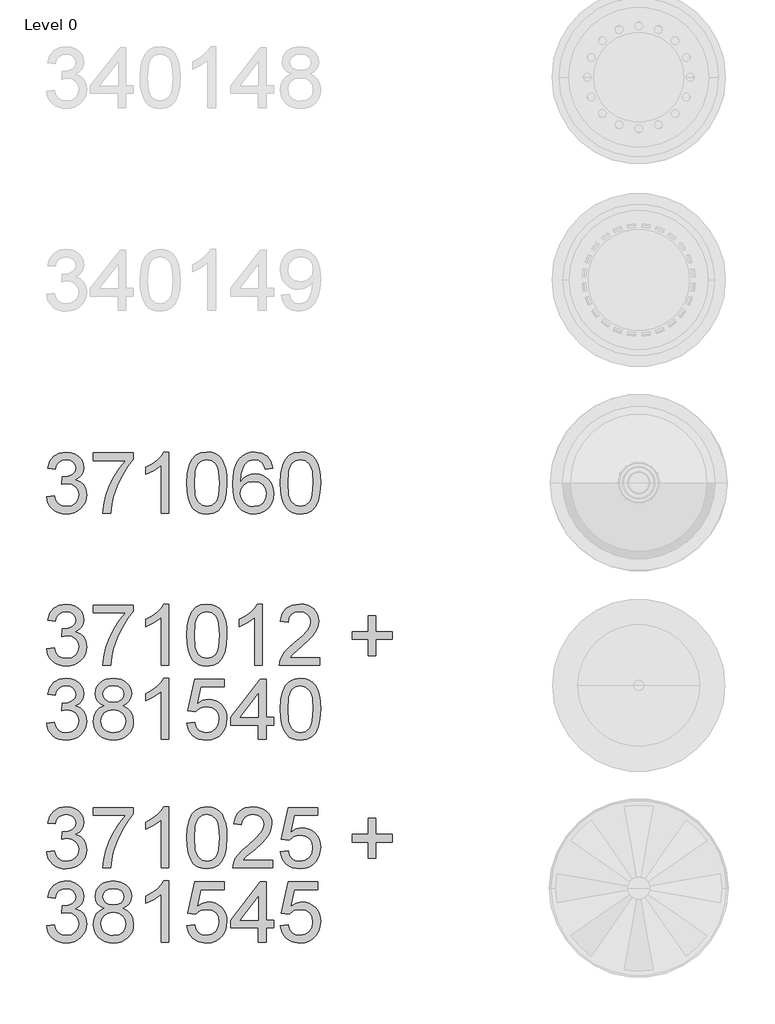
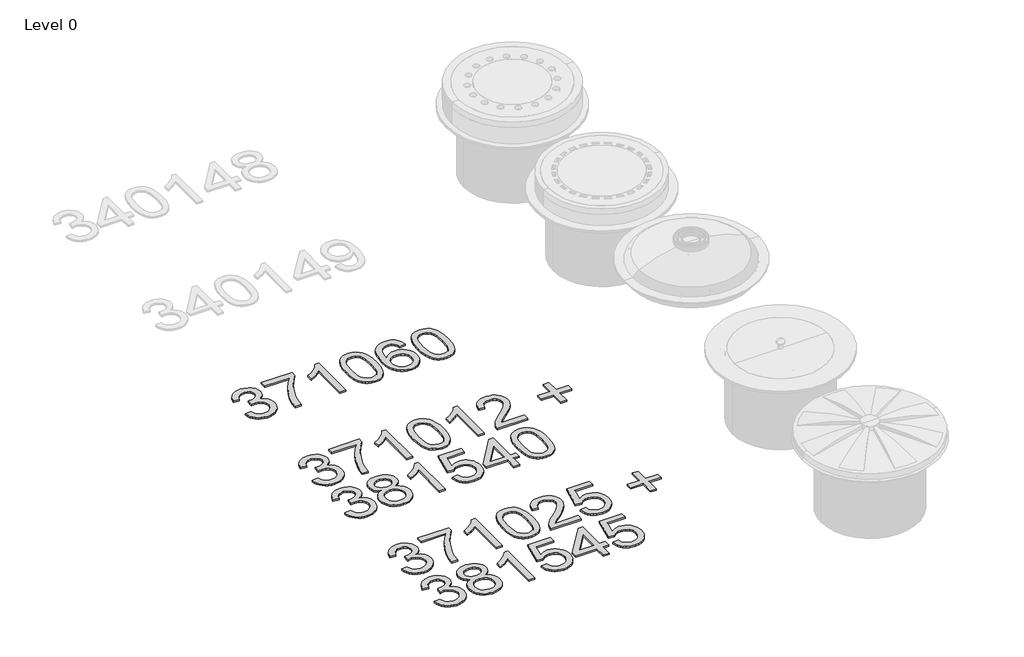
# One storey, part 5 of 25: 3 proxies.
"""IFC4 building model written with IfcOpenShell, lengths in millimetres."""

from ifc_helpers import new_model, si_unit, origin, origin_with_axes, place, context, project, spatial, polyline, outline, extrude, element, save

model = new_model("IFC4")

# Units and contexts
model_context = context("Model", 3, world=origin())
ifc_project = project(units=[si_unit("LENGTHUNIT", "METRE", prefix="MILLI")], contexts=[model_context])

# Site, building, storey
site = spatial("IfcSite", under=ifc_project)
building = spatial("IfcBuilding", under=site)
storey = spatial("IfcBuildingStorey", under=building, Name="Level 0", Elevation=0.0)

# Proxies
placement = place(None, origin())
element("IfcBuildingElementProxy", 1, Name="300mm Arial", ObjectType="300mm Arial", at=placement, inside=storey, context=model_context, shape_type="SweptSolid", body=[
    extrude(outline(polyline([(-3192.0538732, -9120.925676), (-3154.3827568, -9116.2167865), (-3145.9490621, -9139.8899929), (-3133.5974241, -9155.8744656), (-3116.7208376, -9164.979545), (-3094.7122972, -9168.0145714), (-3068.8869812, -9163.8391108), (-3048.947777, -9151.3127288), (-3036.2006659, -9132.6243235), (-3031.9516289, -9109.9627926), (-3036.1638777, -9088.4508929), (-3048.8006242, -9071.0040893), (-3067.930488, -9059.4433976), (-3091.6220885, -9055.5898337), (-3118.0360157, -9059.710112), (-3113.842161, -9022.0389957), (-3107.8088963, -9022.4804541), (-3085.2393359, -9019.7765215), (-3065.0610084, -9011.6647235), (-3050.8239752, -8997.942725), (-3046.0782975, -8978.4081911), (-3049.5179941, -8962.1386099), (-3059.8370841, -8948.9408433), (-3075.5824335, -8940.1944488), (-3095.3009084, -8937.278984), (-3115.0561716, -8940.22204), (-3131.2061912, -8949.0512079), (-3142.9968091, -8963.7664877), (-3149.6738673, -8984.3678794), (-3187.3449836, -8979.6589899), (-3176.2533415, -8945.8322404), (-3156.5164724, -8920.5771415), (-3129.513934, -8904.8501862), (-3096.6252836, -8899.6078677), (-3072.9428802, -8902.1922387), (-3051.1918572, -8909.9453518), (-3032.8529397, -8922.1774281), (-3019.4068528, -8938.198689), (-3011.1570991, -8956.6571681), (-3008.4071812, -8976.2008991), (-3011.0191433, -8994.4110579), (-3018.8550298, -9010.9289595), (-3031.8044761, -9025.0004458), (-3049.7571174, -9035.8713587), (-3026.1758815, -9045.3995024), (-3008.7014868, -9061.6230984), (-2997.8857561, -9083.6592299), (-2994.2805125, -9110.6249802), (-2996.0831343, -9129.7364498), (-3001.4909997, -9147.3396033), (-3010.5041085, -9163.4344406), (-3023.122461, -9178.0209617), (-3038.4953298, -9190.1242793), (-3055.771988, -9198.7695062), (-3074.9524356, -9203.9566423), (-3096.0366724, -9205.6856877), (-3115.0929598, -9204.2095612), (-3132.4569899, -9199.7811817), (-3148.1287629, -9192.4005492), (-3162.1082787, -9182.0676636), (-3173.8299188, -9169.3895304), (-3182.7280646, -9154.9731547), (-3188.802716, -9138.8185366), (-3192.0538732, -9120.925676)])), origin_with_axes(), (0.0, 0.0, 1.0), 10.0),
    extrude(outline(polyline([(-2961.3182858, -8941.9878736), (-2961.3182858, -8904.3167573), (-2763.5449252, -8904.3167573), (-2763.5449252, -8934.7773865), (-2791.7338831, -8970.452743), (-2819.6469294, -9015.82179), (-2844.267432, -9066.7458552), (-2862.5787583, -9119.0862661), (-2871.555079, -9158.2473044), (-2876.5582741, -9200.9767982), (-2914.2293904, -9200.9767982), (-2910.1550973, -9162.1468536), (-2899.2565932, -9115.9960573), (-2881.8281837, -9067.076949), (-2858.1641743, -9019.9420684), (-2830.5362365, -8977.3321363), (-2801.2160415, -8941.9878736), (-2961.3182858, -8941.9878736)])), origin_with_axes(), (0.0, 0.0, 1.0), 10.0),
    extrude(outline(polyline([(-2589.3160123, -9200.9767982), (-2626.9871286, -9200.9767982), (-2626.9871286, -8966.1209325), (-2662.6716821, -8991.5415783), (-2702.3293612, -9010.5610775), (-2702.3293612, -8974.9501003), (-2672.7424517, -8958.8552631), (-2647.1102737, -8939.7070052), (-2626.9043551, -8919.3447368), (-2613.5962239, -8899.6078677), (-2589.3160123, -8899.6078677), (-2589.3160123, -9200.9767982)])), origin_with_axes(), (0.0, 0.0, 1.0), 10.0),
    extrude(outline(polyline([(-2499.847111, -9052.7203541), (-2497.078799, -9004.4818275), (-2488.773863, -8966.0105679), (-2475.0150764, -8936.717964), (-2455.8852126, -8916.0154047), (-2431.246316, -8903.709752), (-2400.9604307, -8899.6078677), (-2377.7470768, -8902.0358889), (-2356.9617441, -8909.3199524), (-2339.5793198, -8921.1749497), (-2326.5746913, -8937.3157722), (-2316.752242, -8957.6044643), (-2308.9163555, -8981.9030701), (-2303.7844017, -9012.7591724), (-2302.0737504, -9052.7203541), (-2304.8144713, -9100.6829692), (-2313.0366339, -9139.0622584), (-2326.7126471, -9168.3824534), (-2345.8149197, -9189.1677861), (-2370.5089986, -9201.5562123), (-2400.9604307, -9205.6856877), (-2421.7089753, -9203.892263), (-2440.103075, -9198.5119888), (-2456.14273, -9189.5448652), (-2469.8279402, -9176.9908921), (-2482.9613275, -9154.2971715), (-2492.3423183, -9126.0208417), (-2497.9709129, -9092.1619025), (-2499.847111, -9052.7203541)]), holes=[polyline([(-2462.1759947, -9052.6467777), (-2457.7614108, -9111.9033701), (-2452.2431809, -9132.1713688), (-2444.517659, -9146.1991691), (-2424.799184, -9162.5607208), (-2400.9604307, -9168.0145714), (-2377.1216774, -9162.5423267), (-2357.4032025, -9146.1255927), (-2349.6776806, -9132.0747997), (-2344.1594507, -9111.8113996), (-2339.7448667, -9052.6467777), (-2344.0122979, -8994.7237576), (-2349.3465868, -8974.5224375), (-2356.8145913, -8960.1612441), (-2376.496278, -8942.9995491), (-2401.4018891, -8937.278984), (-2424.983125, -8942.3189674), (-2443.9290478, -8957.4389174), (-2451.9120871, -8973.0739022), (-2457.614258, -8994.1535405), (-2462.1759947, -9052.6467777)])]), origin_with_axes(), (0.0, 0.0, 1.0), 10.0),
    extrude(outline(polyline([(-2076.0470526, -8979.6589899), (-2113.7181689, -8984.3678794), (-2119.7882218, -8965.6978682), (-2127.9919903, -8952.950757), (-2145.080109, -8941.1969273), (-2165.736683, -8937.278984), (-2183.247866, -8939.5598524), (-2199.7289794, -8946.4024575), (-2213.8832391, -8960.8142347), (-2225.4439308, -8980.6522713), (-2233.2522262, -9008.7124704), (-2236.1492969, -9047.7907354), (-2221.0385439, -9030.1599908), (-2202.9295527, -9017.7347764), (-2182.8339987, -9010.3679394), (-2161.7635575, -9007.9123271), (-2143.6637633, -9009.5907887), (-2126.9619207, -9014.6261735), (-2111.6580297, -9023.0184815), (-2097.7520903, -9034.7677128), (-2086.1959971, -9049.1748914), (-2077.9416449, -9065.5410417), (-2072.9890335, -9083.8661635), (-2071.338163, -9104.150257), (-2074.4467659, -9131.1252043), (-2083.7725745, -9156.131983), (-2098.5430366, -9177.34038), (-2117.9856, -9192.9201825), (-2141.217348, -9202.4943114), (-2167.3553638, -9205.6856877), (-2189.8122603, -9203.5703662), (-2210.0940546, -9197.2244018), (-2228.2007465, -9186.6477945), (-2244.1323362, -9171.8405442), (-2257.1208699, -9152.1772515), (-2266.3983939, -9127.0325171), (-2271.9649084, -9096.406341), (-2273.8204132, -9060.2987232), (-2271.760274, -9019.8179082), (-2265.5798565, -8985.2691903), (-2255.2791606, -8956.6525696), (-2240.8581864, -8933.9680461), (-2225.2278002, -8918.9354681), (-2207.1050134, -8908.1979123), (-2186.4898261, -8901.7553789), (-2163.3822382, -8899.6078677), (-2130.328041, -8904.9237626), (-2103.8589314, -8920.8714471), (-2085.3176789, -8946.2001224), (-2076.0470526, -8979.6589899)]), holes=[polyline([(-2236.1492969, -9103.5616459), (-2233.9695961, -9120.2542914), (-2227.4304936, -9136.1927788), (-2217.2769505, -9149.8963831), (-2204.2539279, -9159.8843793), (-2188.5361697, -9165.9820234), (-2170.2984198, -9168.0145714), (-2145.4387939, -9163.8023226), (-2125.8950629, -9151.165576), (-2113.2307252, -9131.2999483), (-2109.0092794, -9105.4010558), (-2113.175543, -9080.54143), (-2125.6743337, -9061.5863102), (-2145.5491585, -9049.5841601), (-2171.8435241, -9045.5834434), (-2196.6663618, -9049.5841601), (-2217.4241033, -9061.5863102), (-2231.4679985, -9080.0815775), (-2236.1492969, -9103.5616459)])]), origin_with_axes(), (0.0, 0.0, 1.0), 10.0),
    extrude(outline(polyline([(-2038.3759363, -9052.7203541), (-2035.6076243, -9004.4818275), (-2027.3026882, -8966.0105679), (-2013.5439016, -8936.717964), (-1994.4140379, -8916.0154047), (-1969.7751412, -8903.709752), (-1939.489256, -8899.6078677), (-1916.2759021, -8902.0358889), (-1895.4905694, -8909.3199524), (-1878.1081451, -8921.1749497), (-1865.1035166, -8937.3157722), (-1855.2810673, -8957.6044643), (-1847.4451808, -8981.9030701), (-1842.313227, -9012.7591724), (-1840.6025757, -9052.7203541), (-1843.3432965, -9100.6829692), (-1851.5654591, -9139.0622584), (-1865.2414723, -9168.3824534), (-1884.3437449, -9189.1677861), (-1909.0378238, -9201.5562123), (-1939.489256, -9205.6856877), (-1960.2378005, -9203.892263), (-1978.6319003, -9198.5119888), (-1994.6715553, -9189.5448652), (-2008.3567655, -9176.9908921), (-2021.4901527, -9154.2971715), (-2030.8711436, -9126.0208417), (-2036.4997381, -9092.1619025), (-2038.3759363, -9052.7203541)]), holes=[polyline([(-2000.70482, -9052.6467777), (-1996.290236, -9111.9033701), (-1990.7720061, -9132.1713688), (-1983.0464842, -9146.1991691), (-1963.3280093, -9162.5607208), (-1939.489256, -9168.0145714), (-1915.6505027, -9162.5423267), (-1895.9320277, -9146.1255927), (-1888.2065058, -9132.0747997), (-1882.6882759, -9111.8113996), (-1878.273692, -9052.6467777), (-1882.5411231, -8994.7237576), (-1887.8754121, -8974.5224375), (-1895.3434166, -8960.1612441), (-1915.0251033, -8942.9995491), (-1939.9307144, -8937.278984), (-1963.5119503, -8942.3189674), (-1982.457873, -8957.4389174), (-1990.4409123, -8973.0739022), (-1996.1430832, -8994.1535405), (-2000.70482, -9052.6467777)])]), origin_with_axes(), (0.0, 0.0, 1.0), 10.0),
])
element("IfcBuildingElementProxy", 2, Name="300mm Arial", ObjectType="300mm Arial", at=placement, inside=storey, context=model_context, shape_type="SweptSolid", body=[
    extrude(outline(polyline([(-3192.0538732, -9870.925676), (-3154.3827568, -9866.2167865), (-3145.9490621, -9889.8899929), (-3133.5974241, -9905.8744656), (-3116.7208376, -9914.979545), (-3094.7122972, -9918.0145714), (-3068.8869812, -9913.8391108), (-3048.947777, -9901.3127288), (-3036.2006659, -9882.6243235), (-3031.9516289, -9859.9627926), (-3036.1638777, -9838.4508929), (-3048.8006242, -9821.0040893), (-3067.930488, -9809.4433976), (-3091.6220885, -9805.5898337), (-3118.0360157, -9809.710112), (-3113.842161, -9772.0389957), (-3107.8088963, -9772.4804541), (-3085.2393359, -9769.7765215), (-3065.0610084, -9761.6647235), (-3050.8239752, -9747.942725), (-3046.0782975, -9728.4081911), (-3049.5179941, -9712.1386099), (-3059.8370841, -9698.9408433), (-3075.5824335, -9690.1944488), (-3095.3009084, -9687.278984), (-3115.0561716, -9690.22204), (-3131.2061912, -9699.0512079), (-3142.9968091, -9713.7664877), (-3149.6738673, -9734.3678794), (-3187.3449836, -9729.6589899), (-3176.2533415, -9695.8322404), (-3156.5164724, -9670.5771415), (-3129.513934, -9654.8501862), (-3096.6252836, -9649.6078677), (-3072.9428802, -9652.1922387), (-3051.1918572, -9659.9453518), (-3032.8529397, -9672.1774281), (-3019.4068528, -9688.198689), (-3011.1570991, -9706.6571681), (-3008.4071812, -9726.2008991), (-3011.0191433, -9744.4110579), (-3018.8550298, -9760.9289595), (-3031.8044761, -9775.0004458), (-3049.7571174, -9785.8713587), (-3026.1758815, -9795.3995024), (-3008.7014868, -9811.6230984), (-2997.8857561, -9833.6592299), (-2994.2805125, -9860.6249802), (-2996.0831343, -9879.7364498), (-3001.4909997, -9897.3396033), (-3010.5041085, -9913.4344406), (-3023.122461, -9928.0209617), (-3038.4953298, -9940.1242793), (-3055.771988, -9948.7695062), (-3074.9524356, -9953.9566423), (-3096.0366724, -9955.6856877), (-3115.0929598, -9954.2095612), (-3132.4569899, -9949.7811817), (-3148.1287629, -9942.4005492), (-3162.1082787, -9932.0676636), (-3173.8299188, -9919.3895304), (-3182.7280646, -9904.9731547), (-3188.802716, -9888.8185366), (-3192.0538732, -9870.925676)])), origin_with_axes(), (0.0, 0.0, 1.0), 10.0),
    extrude(outline(polyline([(-2961.3182858, -9691.9878736), (-2961.3182858, -9654.3167573), (-2763.5449252, -9654.3167573), (-2763.5449252, -9684.7773865), (-2791.7338831, -9720.452743), (-2819.6469294, -9765.82179), (-2844.267432, -9816.7458552), (-2862.5787583, -9869.0862661), (-2871.555079, -9908.2473044), (-2876.5582741, -9950.9767982), (-2914.2293904, -9950.9767982), (-2910.1550973, -9912.1468536), (-2899.2565932, -9865.9960573), (-2881.8281837, -9817.076949), (-2858.1641743, -9769.9420684), (-2830.5362365, -9727.3321363), (-2801.2160415, -9691.9878736), (-2961.3182858, -9691.9878736)])), origin_with_axes(), (0.0, 0.0, 1.0), 10.0),
    extrude(outline(polyline([(-2589.3160123, -9950.9767982), (-2626.9871286, -9950.9767982), (-2626.9871286, -9716.1209325), (-2662.6716821, -9741.5415783), (-2702.3293612, -9760.5610775), (-2702.3293612, -9724.9501003), (-2672.7424517, -9708.8552631), (-2647.1102737, -9689.7070052), (-2626.9043551, -9669.3447368), (-2613.5962239, -9649.6078677), (-2589.3160123, -9649.6078677), (-2589.3160123, -9950.9767982)])), origin_with_axes(), (0.0, 0.0, 1.0), 10.0),
    extrude(outline(polyline([(-2499.847111, -9802.7203541), (-2497.078799, -9754.4818275), (-2488.773863, -9716.0105679), (-2475.0150764, -9686.717964), (-2455.8852126, -9666.0154047), (-2431.246316, -9653.709752), (-2400.9604307, -9649.6078677), (-2377.7470768, -9652.0358889), (-2356.9617441, -9659.3199524), (-2339.5793198, -9671.1749497), (-2326.5746913, -9687.3157722), (-2316.752242, -9707.6044643), (-2308.9163555, -9731.9030701), (-2303.7844017, -9762.7591724), (-2302.0737504, -9802.7203541), (-2304.8144713, -9850.6829692), (-2313.0366339, -9889.0622584), (-2326.7126471, -9918.3824534), (-2345.8149197, -9939.1677861), (-2370.5089986, -9951.5562123), (-2400.9604307, -9955.6856877), (-2421.7089753, -9953.892263), (-2440.103075, -9948.5119888), (-2456.14273, -9939.5448652), (-2469.8279402, -9926.9908921), (-2482.9613275, -9904.2971715), (-2492.3423183, -9876.0208417), (-2497.9709129, -9842.1619025), (-2499.847111, -9802.7203541)]), holes=[polyline([(-2462.1759947, -9802.6467777), (-2457.7614108, -9861.9033701), (-2452.2431809, -9882.1713688), (-2444.517659, -9896.1991691), (-2424.799184, -9912.5607208), (-2400.9604307, -9918.0145714), (-2377.1216774, -9912.5423267), (-2357.4032025, -9896.1255927), (-2349.6776806, -9882.0747997), (-2344.1594507, -9861.8113996), (-2339.7448667, -9802.6467777), (-2344.0122979, -9744.7237576), (-2349.3465868, -9724.5224375), (-2356.8145913, -9710.1612441), (-2376.496278, -9692.9995491), (-2401.4018891, -9687.278984), (-2424.983125, -9692.3189674), (-2443.9290478, -9707.4389174), (-2451.9120871, -9723.0739022), (-2457.614258, -9744.1535405), (-2462.1759947, -9802.6467777)])]), origin_with_axes(), (0.0, 0.0, 1.0), 10.0),
    extrude(outline(polyline([(-2127.8448375, -9950.9767982), (-2165.5159538, -9950.9767982), (-2165.5159538, -9716.1209325), (-2201.2005073, -9741.5415783), (-2240.8581864, -9760.5610775), (-2240.8581864, -9724.9501003), (-2211.271277, -9708.8552631), (-2185.639099, -9689.7070052), (-2165.4331804, -9669.3447368), (-2152.1250492, -9649.6078677), (-2127.8448375, -9649.6078677), (-2127.8448375, -9950.9767982)])), origin_with_axes(), (0.0, 0.0, 1.0), 10.0),
    extrude(outline(polyline([(-1845.3114652, -9913.3056819), (-1845.3114652, -9950.9767982), (-2043.0848258, -9950.9767982), (-2039.0381239, -9925.0043293), (-2029.7491035, -9904.7064402), (-2016.1558638, -9885.0155564), (-1996.4925711, -9864.4049677), (-1968.993392, -9841.3479636), (-1928.3424315, -9805.2403458), (-1903.9518552, -9778.5872952), (-1891.7565671, -9756.9558339), (-1887.6914711, -9735.9129838), (-1891.5266409, -9717.0498345), (-1903.0321503, -9701.3688645), (-1920.7180772, -9690.8014541), (-1943.0944995, -9687.278984), (-1966.592962, -9690.7186807), (-1984.849106, -9701.0377707), (-1996.6305269, -9717.4269135), (-2000.70482, -9739.076769), (-2038.3759363, -9734.3678794), (-2029.2432658, -9697.9291678), (-2020.6969072, -9683.3932305), (-2009.4971997, -9671.3129054), (-1995.9016607, -9661.8169514), (-1980.1678076, -9655.0341272), (-1942.2851591, -9649.6078677), (-1922.0953354, -9651.1161839), (-1904.1265992, -9655.6411325), (-1888.3789505, -9663.1827134), (-1874.8523894, -9673.7409266), (-1863.9883743, -9686.534023), (-1856.2283634, -9700.7802533), (-1851.5723569, -9716.4796174), (-1850.0203548, -9733.6321154), (-1851.6942178, -9751.6491361), (-1856.7158071, -9769.3534572), (-1865.6277484, -9787.3612808), (-1878.9726678, -9806.2888095), (-1900.2454441, -9828.885961), (-1932.9409565, -9857.9026534), (-1976.2774555, -9894.1390299), (-1993.2736037, -9913.3056819), (-1845.3114652, -9913.3056819)])), origin_with_axes(), (0.0, 0.0, 1.0), 10.0),
    extrude(outline(polyline([(-1605.1580988, -9903.8879028), (-1605.1580988, -9823.8367806), (-1685.2092209, -9823.8367806), (-1685.2092209, -9786.1656643), (-1605.1580988, -9786.1656643), (-1605.1580988, -9706.1145422), (-1567.4869825, -9706.1145422), (-1567.4869825, -9786.1656643), (-1487.4358603, -9786.1656643), (-1487.4358603, -9823.8367806), (-1567.4869825, -9823.8367806), (-1567.4869825, -9903.8879028), (-1605.1580988, -9903.8879028)])), origin_with_axes(), (0.0, 0.0, 1.0), 10.0),
    extrude(outline(polyline([(-3192.0538732, -10236.8501296), (-3154.3827568, -10232.14124), (-3145.9490621, -10255.8144464), (-3133.5974241, -10271.7989191), (-3116.7208376, -10280.9039985), (-3094.7122972, -10283.9390249), (-3068.8869812, -10279.7635643), (-3048.947777, -10267.2371824), (-3036.2006659, -10248.548777), (-3031.9516289, -10225.8872461), (-3036.1638777, -10204.3753464), (-3048.8006242, -10186.9285428), (-3067.930488, -10175.3678511), (-3091.6220885, -10171.5142872), (-3118.0360157, -10175.6345656), (-3113.842161, -10137.9634493), (-3107.8088963, -10138.4049077), (-3085.2393359, -10135.700975), (-3065.0610084, -10127.589177), (-3050.8239752, -10113.8671786), (-3046.0782975, -10094.3326446), (-3049.5179941, -10078.0630634), (-3059.8370841, -10064.8652968), (-3075.5824335, -10056.1189024), (-3095.3009084, -10053.2034376), (-3115.0561716, -10056.1464935), (-3131.2061912, -10064.9756614), (-3142.9968091, -10079.6909412), (-3149.6738673, -10100.292333), (-3187.3449836, -10095.5834434), (-3176.2533415, -10061.756694), (-3156.5164724, -10036.501595), (-3129.513934, -10020.7746397), (-3096.6252836, -10015.5323213), (-3072.9428802, -10018.1166923), (-3051.1918572, -10025.8698053), (-3032.8529397, -10038.1018817), (-3019.4068528, -10054.1231426), (-3011.1570991, -10072.5816217), (-3008.4071812, -10092.1253527), (-3011.0191433, -10110.3355114), (-3018.8550298, -10126.853413), (-3031.8044761, -10140.9248993), (-3049.7571174, -10151.7958123), (-3026.1758815, -10161.323956), (-3008.7014868, -10177.5475519), (-2997.8857561, -10199.5836835), (-2994.2805125, -10226.5494337), (-2996.0831343, -10245.6609033), (-3001.4909997, -10263.2640568), (-3010.5041085, -10279.3588941), (-3023.122461, -10293.9454152), (-3038.4953298, -10306.0487329), (-3055.771988, -10314.6939597), (-3074.9524356, -10319.8810959), (-3096.0366724, -10321.6101413), (-3115.0929598, -10320.1340147), (-3132.4569899, -10315.7056352), (-3148.1287629, -10308.3250027), (-3162.1082787, -10297.9921172), (-3173.8299188, -10285.3139839), (-3182.7280646, -10270.8976082), (-3188.802716, -10254.7429901), (-3192.0538732, -10236.8501296)])), origin_with_axes(), (0.0, 0.0, 1.0), 10.0),
    extrude(outline(polyline([(-2906.4302921, -10150.9128955), (-2926.5994225, -10140.9800816), (-2940.7536823, -10127.5156006), (-2949.1138006, -10110.7953639), (-2951.9005067, -10091.0952831), (-2950.3829935, -10075.7316113), (-2945.8304538, -10061.6463294), (-2938.2428876, -10048.8394374), (-2927.620295, -10037.3109354), (-2914.4731122, -10027.7827917), (-2899.3117755, -10020.9769748), (-2862.9466403, -10015.5323213), (-2826.3607758, -10021.1057335), (-2811.0338922, -10028.0724988), (-2797.6843743, -10037.8259702), (-2786.8686437, -10049.5797999), (-2779.1431218, -10062.5476402), (-2774.5078086, -10076.7294912), (-2772.9627043, -10092.1253527), (-2775.7126222, -10111.1908371), (-2783.9623759, -10127.6259652), (-2797.803936, -10141.0076728), (-2817.3292729, -10150.9128955), (-2794.1435101, -10162.8598633), (-2777.2669236, -10180.4538197), (-2766.9754248, -10202.8486362), (-2763.5449252, -10229.1981841), (-2765.2463794, -10247.987757), (-2770.3507421, -10265.2138314), (-2778.8580132, -10280.8764073), (-2790.7681928, -10294.9754848), (-2805.4558815, -10306.628147), (-2822.2956798, -10314.9514771), (-2841.2875878, -10319.9454752), (-2862.4316055, -10321.6101413), (-2883.5756231, -10319.9385774), (-2902.5675312, -10314.923886), (-2919.4073295, -10306.5660669), (-2934.0950181, -10294.8651202), (-2946.0051977, -10280.6671745), (-2954.5124689, -10264.8183582), (-2959.6168316, -10247.3186716), (-2961.3182858, -10228.1681145), (-2957.7498304, -10200.797694), (-2947.0444644, -10178.2833159), (-2929.7540106, -10161.3975324), (-2906.4302921, -10150.9128955)]), holes=[polyline([(-2914.2293904, -10092.1989291), (-2910.8908613, -10108.6432542), (-2900.875274, -10121.7766415), (-2884.476934, -10130.3850802), (-2861.9901471, -10133.2545597), (-2840.027592, -10130.4034743), (-2823.8775724, -10121.8502179), (-2813.9447585, -10109.158289), (-2810.6338206, -10093.8911862), (-2814.0551231, -10078.0446693), (-2824.3190308, -10064.9388732), (-2840.6897796, -10056.1372965), (-2862.4316055, -10053.2034376), (-2884.3113871, -10056.0729171), (-2900.6545448, -10064.6813558), (-2910.835679, -10077.2997083), (-2914.2293904, -10092.1989291)]), polyline([(-2923.6471695, -10226.8437393), (-2917.3563874, -10255.2074411), (-2908.6467811, -10267.3751381), (-2895.0995266, -10276.4342322), (-2878.8759307, -10282.0628268), (-2862.1372999, -10283.9390249), (-2836.4959248, -10279.9934905), (-2817.2556965, -10268.1568874), (-2805.2259552, -10250.2318371), (-2801.2160415, -10228.0209617), (-2805.3547139, -10205.4330072), (-2817.7707313, -10187.1124838), (-2837.452418, -10174.972378), (-2863.3880987, -10170.925676), (-2888.6707888, -10174.9171957), (-2907.7178791, -10186.8917546), (-2919.6648469, -10204.8627901), (-2923.6471695, -10226.8437393)])]), origin_with_axes(), (0.0, 0.0, 1.0), 10.0),
    extrude(outline(polyline([(-2589.3160123, -10316.9012517), (-2626.9871286, -10316.9012517), (-2626.9871286, -10082.045386), (-2662.6716821, -10107.4660319), (-2702.3293612, -10126.485531), (-2702.3293612, -10090.8745539), (-2672.7424517, -10074.7797166), (-2647.1102737, -10055.6314587), (-2626.9043551, -10035.2691903), (-2613.5962239, -10015.5323213), (-2589.3160123, -10015.5323213), (-2589.3160123, -10316.9012517)])), origin_with_axes(), (0.0, 0.0, 1.0), 10.0),
    extrude(outline(polyline([(-2499.847111, -10236.8501296), (-2462.1759947, -10232.14124), (-2455.2598132, -10254.7567857), (-2443.1932838, -10270.9527905), (-2426.0315887, -10280.6924663), (-2403.8299103, -10283.9390249), (-2376.8273718, -10279.4232735), (-2356.5938621, -10265.876019), (-2343.9571156, -10244.86076), (-2339.7448667, -10217.940995), (-2343.6904011, -10192.5939255), (-2355.5270043, -10173.2065444), (-2375.3466468, -10160.9008917), (-2403.2412991, -10156.7990074), (-2421.5158372, -10158.4360823), (-2436.3138905, -10163.3473069), (-2457.4671052, -10180.3434551), (-2495.1382215, -10175.6345656), (-2462.1759947, -10020.2412108), (-2316.200419, -10020.2412108), (-2316.200419, -10057.9123271), (-2431.7153655, -10057.9123271), (-2447.8285969, -10140.9065052), (-2420.918029, -10124.5725446), (-2392.719874, -10119.1278911), (-2374.3740588, -10120.8155498), (-2357.5227641, -10125.8785257), (-2342.1659901, -10134.316819), (-2328.3037367, -10146.1304296), (-2316.8281177, -10160.597389), (-2308.631247, -10176.9957289), (-2303.7131246, -10195.3254494), (-2302.0737504, -10215.5865502), (-2307.9782564, -10253.2576665), (-2315.358889, -10270.0514796), (-2325.6917745, -10285.4841293), (-2341.3451534, -10301.2892595), (-2359.6104945, -10312.5786383), (-2380.4877977, -10319.3522655), (-2403.9770631, -10321.6101413), (-2440.9767948, -10315.8068028), (-2456.6554655, -10308.5526297), (-2470.4533396, -10298.3967874), (-2481.9335571, -10285.8451135), (-2490.6592582, -10271.403446), (-2499.847111, -10236.8501296)])), origin_with_axes(), (0.0, 0.0, 1.0), 10.0),
    extrude(outline(polyline([(-2146.6803957, -10316.9012517), (-2146.6803957, -10246.2679086), (-2283.2381923, -10246.2679086), (-2283.2381923, -10208.5967923), (-2137.2626166, -10020.2412108), (-2109.0092794, -10020.2412108), (-2109.0092794, -10208.5967923), (-2071.338163, -10208.5967923), (-2071.338163, -10246.2679086), (-2109.0092794, -10246.2679086), (-2109.0092794, -10316.9012517), (-2146.6803957, -10316.9012517)]), holes=[polyline([(-2146.6803957, -10208.5967923), (-2146.6803957, -10092.1989291), (-2236.8850609, -10208.5967923), (-2146.6803957, -10208.5967923)])]), origin_with_axes(), (0.0, 0.0, 1.0), 10.0),
    extrude(outline(polyline([(-2038.3759363, -10168.6448077), (-2035.6076243, -10120.406281), (-2027.3026882, -10081.9350214), (-2013.5439016, -10052.6424175), (-1994.4140379, -10031.9398582), (-1969.7751412, -10019.6342055), (-1939.489256, -10015.5323213), (-1916.2759021, -10017.9603424), (-1895.4905694, -10025.2444059), (-1878.1081451, -10037.0994032), (-1865.1035166, -10053.2402258), (-1855.2810673, -10073.5289178), (-1847.4451808, -10097.8275236), (-1842.313227, -10128.6836259), (-1840.6025757, -10168.6448077), (-1843.3432965, -10216.6074228), (-1851.5654591, -10254.9867119), (-1865.2414723, -10284.3069069), (-1884.3437449, -10305.0922397), (-1909.0378238, -10317.4806659), (-1939.489256, -10321.6101413), (-1960.2378005, -10319.8167165), (-1978.6319003, -10314.4364423), (-1994.6715553, -10305.4693187), (-2008.3567655, -10292.9153456), (-2021.4901527, -10270.2216251), (-2030.8711436, -10241.9452952), (-2036.4997381, -10208.0863561), (-2038.3759363, -10168.6448077)]), holes=[polyline([(-2000.70482, -10168.5712313), (-1996.290236, -10227.8278236), (-1990.7720061, -10248.0958223), (-1983.0464842, -10262.1236226), (-1963.3280093, -10278.4851744), (-1939.489256, -10283.9390249), (-1915.6505027, -10278.4667803), (-1895.9320277, -10262.0500462), (-1888.2065058, -10247.9992533), (-1882.6882759, -10227.7358531), (-1878.273692, -10168.5712313), (-1882.5411231, -10110.6482111), (-1887.8754121, -10090.4468911), (-1895.3434166, -10076.0856977), (-1915.0251033, -10058.9240026), (-1939.9307144, -10053.2034376), (-1963.5119503, -10058.2434209), (-1982.457873, -10073.3633709), (-1990.4409123, -10088.9983557), (-1996.1430832, -10110.077994), (-2000.70482, -10168.5712313)])]), origin_with_axes(), (0.0, 0.0, 1.0), 10.0),
])
element("IfcBuildingElementProxy", 3, Name="300mm Arial", ObjectType="300mm Arial", at=placement, inside=storey, context=model_context, shape_type="SweptSolid", body=[
    extrude(outline(polyline([(-3192.0538732, -10870.925676), (-3154.3827568, -10866.2167865), (-3145.9490621, -10889.8899929), (-3133.5974241, -10905.8744656), (-3116.7208376, -10914.979545), (-3094.7122972, -10918.0145714), (-3068.8869812, -10913.8391108), (-3048.947777, -10901.3127288), (-3036.2006659, -10882.6243235), (-3031.9516289, -10859.9627926), (-3036.1638777, -10838.4508929), (-3048.8006242, -10821.0040893), (-3067.930488, -10809.4433976), (-3091.6220885, -10805.5898337), (-3118.0360157, -10809.710112), (-3113.842161, -10772.0389957), (-3107.8088963, -10772.4804541), (-3085.2393359, -10769.7765215), (-3065.0610084, -10761.6647235), (-3050.8239752, -10747.942725), (-3046.0782975, -10728.4081911), (-3049.5179941, -10712.1386099), (-3059.8370841, -10698.9408433), (-3075.5824335, -10690.1944488), (-3095.3009084, -10687.278984), (-3115.0561716, -10690.22204), (-3131.2061912, -10699.0512079), (-3142.9968091, -10713.7664877), (-3149.6738673, -10734.3678794), (-3187.3449836, -10729.6589899), (-3176.2533415, -10695.8322404), (-3156.5164724, -10670.5771415), (-3129.513934, -10654.8501862), (-3096.6252836, -10649.6078677), (-3072.9428802, -10652.1922387), (-3051.1918572, -10659.9453518), (-3032.8529397, -10672.1774281), (-3019.4068528, -10688.198689), (-3011.1570991, -10706.6571681), (-3008.4071812, -10726.2008991), (-3011.0191433, -10744.4110579), (-3018.8550298, -10760.9289595), (-3031.8044761, -10775.0004458), (-3049.7571174, -10785.8713587), (-3026.1758815, -10795.3995024), (-3008.7014868, -10811.6230984), (-2997.8857561, -10833.6592299), (-2994.2805125, -10860.6249802), (-2996.0831343, -10879.7364498), (-3001.4909997, -10897.3396033), (-3010.5041085, -10913.4344406), (-3023.122461, -10928.0209617), (-3038.4953298, -10940.1242793), (-3055.771988, -10948.7695062), (-3074.9524356, -10953.9566423), (-3096.0366724, -10955.6856877), (-3115.0929598, -10954.2095612), (-3132.4569899, -10949.7811817), (-3148.1287629, -10942.4005492), (-3162.1082787, -10932.0676636), (-3173.8299188, -10919.3895304), (-3182.7280646, -10904.9731547), (-3188.802716, -10888.8185366), (-3192.0538732, -10870.925676)])), origin_with_axes(), (0.0, 0.0, 1.0), 10.0),
    extrude(outline(polyline([(-2961.3182858, -10691.9878736), (-2961.3182858, -10654.3167573), (-2763.5449252, -10654.3167573), (-2763.5449252, -10684.7773865), (-2791.7338831, -10720.452743), (-2819.6469294, -10765.82179), (-2844.267432, -10816.7458552), (-2862.5787583, -10869.0862661), (-2871.555079, -10908.2473044), (-2876.5582741, -10950.9767982), (-2914.2293904, -10950.9767982), (-2910.1550973, -10912.1468536), (-2899.2565932, -10865.9960573), (-2881.8281837, -10817.076949), (-2858.1641743, -10769.9420684), (-2830.5362365, -10727.3321363), (-2801.2160415, -10691.9878736), (-2961.3182858, -10691.9878736)])), origin_with_axes(), (0.0, 0.0, 1.0), 10.0),
    extrude(outline(polyline([(-2589.3160123, -10950.9767982), (-2626.9871286, -10950.9767982), (-2626.9871286, -10716.1209325), (-2662.6716821, -10741.5415783), (-2702.3293612, -10760.5610775), (-2702.3293612, -10724.9501003), (-2672.7424517, -10708.8552631), (-2647.1102737, -10689.7070052), (-2626.9043551, -10669.3447368), (-2613.5962239, -10649.6078677), (-2589.3160123, -10649.6078677), (-2589.3160123, -10950.9767982)])), origin_with_axes(), (0.0, 0.0, 1.0), 10.0),
    extrude(outline(polyline([(-2499.847111, -10802.7203541), (-2497.078799, -10754.4818275), (-2488.773863, -10716.0105679), (-2475.0150764, -10686.717964), (-2455.8852126, -10666.0154047), (-2431.246316, -10653.709752), (-2400.9604307, -10649.6078677), (-2377.7470768, -10652.0358889), (-2356.9617441, -10659.3199524), (-2339.5793198, -10671.1749497), (-2326.5746913, -10687.3157722), (-2316.752242, -10707.6044643), (-2308.9163555, -10731.9030701), (-2303.7844017, -10762.7591724), (-2302.0737504, -10802.7203541), (-2304.8144713, -10850.6829692), (-2313.0366339, -10889.0622584), (-2326.7126471, -10918.3824534), (-2345.8149197, -10939.1677861), (-2370.5089986, -10951.5562123), (-2400.9604307, -10955.6856877), (-2421.7089753, -10953.892263), (-2440.103075, -10948.5119888), (-2456.14273, -10939.5448652), (-2469.8279402, -10926.9908921), (-2482.9613275, -10904.2971715), (-2492.3423183, -10876.0208417), (-2497.9709129, -10842.1619025), (-2499.847111, -10802.7203541)]), holes=[polyline([(-2462.1759947, -10802.6467777), (-2457.7614108, -10861.9033701), (-2452.2431809, -10882.1713688), (-2444.517659, -10896.1991691), (-2424.799184, -10912.5607208), (-2400.9604307, -10918.0145714), (-2377.1216774, -10912.5423267), (-2357.4032025, -10896.1255927), (-2349.6776806, -10882.0747997), (-2344.1594507, -10861.8113996), (-2339.7448667, -10802.6467777), (-2344.0122979, -10744.7237576), (-2349.3465868, -10724.5224375), (-2356.8145913, -10710.1612441), (-2376.496278, -10692.9995491), (-2401.4018891, -10687.278984), (-2424.983125, -10692.3189674), (-2443.9290478, -10707.4389174), (-2451.9120871, -10723.0739022), (-2457.614258, -10744.1535405), (-2462.1759947, -10802.6467777)])]), origin_with_axes(), (0.0, 0.0, 1.0), 10.0),
    extrude(outline(polyline([(-2076.0470526, -10913.3056819), (-2076.0470526, -10950.9767982), (-2273.8204132, -10950.9767982), (-2269.7737112, -10925.0043293), (-2260.4846909, -10904.7064402), (-2246.8914511, -10885.0155564), (-2227.2281585, -10864.4049677), (-2199.7289794, -10841.3479636), (-2159.0780189, -10805.2403458), (-2134.6874426, -10778.5872952), (-2122.4921545, -10756.9558339), (-2118.4270584, -10735.9129838), (-2122.2622282, -10717.0498345), (-2133.7677376, -10701.3688645), (-2151.4536645, -10690.8014541), (-2173.8300869, -10687.278984), (-2197.3285493, -10690.7186807), (-2215.5846934, -10701.0377707), (-2227.3661143, -10717.4269135), (-2231.4404073, -10739.076769), (-2269.1115237, -10734.3678794), (-2259.9788531, -10697.9291678), (-2251.4324945, -10683.3932305), (-2240.232787, -10671.3129054), (-2226.6372481, -10661.8169514), (-2210.903395, -10655.0341272), (-2173.0207465, -10649.6078677), (-2152.8309228, -10651.1161839), (-2134.8621866, -10655.6411325), (-2119.1145379, -10663.1827134), (-2105.5879768, -10673.7409266), (-2094.7239616, -10686.534023), (-2086.9639508, -10700.7802533), (-2082.3079443, -10716.4796174), (-2080.7559421, -10733.6321154), (-2082.4298052, -10751.6491361), (-2087.4513944, -10769.3534572), (-2096.3633358, -10787.3612808), (-2109.7082551, -10806.2888095), (-2130.9810315, -10828.885961), (-2163.6765438, -10857.9026534), (-2207.0130429, -10894.1390299), (-2224.009191, -10913.3056819), (-2076.0470526, -10913.3056819)])), origin_with_axes(), (0.0, 0.0, 1.0), 10.0),
    extrude(outline(polyline([(-2038.3759363, -10870.925676), (-2000.70482, -10866.2167865), (-1993.7886385, -10888.8323321), (-1981.722109, -10905.028337), (-1964.5604139, -10914.7680128), (-1942.3587355, -10918.0145714), (-1915.3561971, -10913.4988199), (-1895.1226874, -10899.9515654), (-1882.4859408, -10878.9363065), (-1878.273692, -10852.0165415), (-1882.2192264, -10826.669472), (-1894.0558296, -10807.2820909), (-1913.8754721, -10794.9764381), (-1941.7701243, -10790.8745539), (-1960.0446625, -10792.5116288), (-1974.8427157, -10797.4228534), (-1995.9959304, -10814.4190016), (-2033.6670467, -10809.710112), (-2000.70482, -10654.3167573), (-1854.7292443, -10654.3167573), (-1854.7292443, -10691.9878736), (-1970.2441908, -10691.9878736), (-1986.3574222, -10774.9820517), (-1959.4468542, -10758.6480911), (-1931.2486993, -10753.2034376), (-1912.902884, -10754.8910962), (-1896.0515894, -10759.9540722), (-1880.6948154, -10768.3923654), (-1866.8325619, -10780.205976), (-1855.3569429, -10794.6729355), (-1847.1600722, -10811.0712754), (-1842.2419498, -10829.4009958), (-1840.6025757, -10849.6620967), (-1846.5070817, -10887.333213), (-1853.8877142, -10904.1270261), (-1864.2205998, -10919.5596758), (-1879.8739787, -10935.364806), (-1898.1393197, -10946.6541847), (-1919.0166229, -10953.427812), (-1942.5058883, -10955.6856877), (-1979.50562, -10949.8823492), (-1995.1842908, -10942.6281762), (-2008.9821649, -10932.4723338), (-2020.4623824, -10919.92066), (-2029.1880835, -10905.4789924), (-2038.3759363, -10870.925676)])), origin_with_axes(), (0.0, 0.0, 1.0), 10.0),
    extrude(outline(polyline([(-1605.1580988, -10903.8879028), (-1605.1580988, -10823.8367806), (-1685.2092209, -10823.8367806), (-1685.2092209, -10786.1656643), (-1605.1580988, -10786.1656643), (-1605.1580988, -10706.1145422), (-1567.4869825, -10706.1145422), (-1567.4869825, -10786.1656643), (-1487.4358603, -10786.1656643), (-1487.4358603, -10823.8367806), (-1567.4869825, -10823.8367806), (-1567.4869825, -10903.8879028), (-1605.1580988, -10903.8879028)])), origin_with_axes(), (0.0, 0.0, 1.0), 10.0),
    extrude(outline(polyline([(-3192.0538732, -11236.8501296), (-3154.3827568, -11232.14124), (-3145.9490621, -11255.8144464), (-3133.5974241, -11271.7989191), (-3116.7208376, -11280.9039985), (-3094.7122972, -11283.9390249), (-3068.8869812, -11279.7635643), (-3048.947777, -11267.2371824), (-3036.2006659, -11248.548777), (-3031.9516289, -11225.8872461), (-3036.1638777, -11204.3753464), (-3048.8006242, -11186.9285428), (-3067.930488, -11175.3678511), (-3091.6220885, -11171.5142872), (-3118.0360157, -11175.6345656), (-3113.842161, -11137.9634493), (-3107.8088963, -11138.4049077), (-3085.2393359, -11135.700975), (-3065.0610084, -11127.589177), (-3050.8239752, -11113.8671786), (-3046.0782975, -11094.3326446), (-3049.5179941, -11078.0630634), (-3059.8370841, -11064.8652968), (-3075.5824335, -11056.1189024), (-3095.3009084, -11053.2034376), (-3115.0561716, -11056.1464935), (-3131.2061912, -11064.9756614), (-3142.9968091, -11079.6909412), (-3149.6738673, -11100.292333), (-3187.3449836, -11095.5834434), (-3176.2533415, -11061.756694), (-3156.5164724, -11036.501595), (-3129.513934, -11020.7746397), (-3096.6252836, -11015.5323213), (-3072.9428802, -11018.1166923), (-3051.1918572, -11025.8698053), (-3032.8529397, -11038.1018817), (-3019.4068528, -11054.1231426), (-3011.1570991, -11072.5816217), (-3008.4071812, -11092.1253527), (-3011.0191433, -11110.3355114), (-3018.8550298, -11126.853413), (-3031.8044761, -11140.9248993), (-3049.7571174, -11151.7958123), (-3026.1758815, -11161.323956), (-3008.7014868, -11177.5475519), (-2997.8857561, -11199.5836835), (-2994.2805125, -11226.5494337), (-2996.0831343, -11245.6609033), (-3001.4909997, -11263.2640568), (-3010.5041085, -11279.3588941), (-3023.122461, -11293.9454152), (-3038.4953298, -11306.0487329), (-3055.771988, -11314.6939597), (-3074.9524356, -11319.8810959), (-3096.0366724, -11321.6101413), (-3115.0929598, -11320.1340147), (-3132.4569899, -11315.7056352), (-3148.1287629, -11308.3250027), (-3162.1082787, -11297.9921172), (-3173.8299188, -11285.3139839), (-3182.7280646, -11270.8976082), (-3188.802716, -11254.7429901), (-3192.0538732, -11236.8501296)])), origin_with_axes(), (0.0, 0.0, 1.0), 10.0),
    extrude(outline(polyline([(-2906.4302921, -11150.9128955), (-2926.5994225, -11140.9800816), (-2940.7536823, -11127.5156006), (-2949.1138006, -11110.7953639), (-2951.9005067, -11091.0952831), (-2950.3829935, -11075.7316113), (-2945.8304538, -11061.6463294), (-2938.2428876, -11048.8394374), (-2927.620295, -11037.3109354), (-2914.4731122, -11027.7827917), (-2899.3117755, -11020.9769748), (-2862.9466403, -11015.5323213), (-2826.3607758, -11021.1057335), (-2811.0338922, -11028.0724988), (-2797.6843743, -11037.8259702), (-2786.8686437, -11049.5797999), (-2779.1431218, -11062.5476402), (-2774.5078086, -11076.7294912), (-2772.9627043, -11092.1253527), (-2775.7126222, -11111.1908371), (-2783.9623759, -11127.6259652), (-2797.803936, -11141.0076728), (-2817.3292729, -11150.9128955), (-2794.1435101, -11162.8598633), (-2777.2669236, -11180.4538197), (-2766.9754248, -11202.8486362), (-2763.5449252, -11229.1981841), (-2765.2463794, -11247.987757), (-2770.3507421, -11265.2138314), (-2778.8580132, -11280.8764073), (-2790.7681928, -11294.9754848), (-2805.4558815, -11306.628147), (-2822.2956798, -11314.9514771), (-2841.2875878, -11319.9454752), (-2862.4316055, -11321.6101413), (-2883.5756231, -11319.9385774), (-2902.5675312, -11314.923886), (-2919.4073295, -11306.5660669), (-2934.0950181, -11294.8651202), (-2946.0051977, -11280.6671745), (-2954.5124689, -11264.8183582), (-2959.6168316, -11247.3186716), (-2961.3182858, -11228.1681145), (-2957.7498304, -11200.797694), (-2947.0444644, -11178.2833159), (-2929.7540106, -11161.3975324), (-2906.4302921, -11150.9128955)]), holes=[polyline([(-2923.6471695, -11226.8437393), (-2917.3563874, -11255.2074411), (-2908.6467811, -11267.3751381), (-2895.0995266, -11276.4342322), (-2878.8759307, -11282.0628268), (-2862.1372999, -11283.9390249), (-2836.4959248, -11279.9934905), (-2817.2556965, -11268.1568874), (-2805.2259552, -11250.2318371), (-2801.2160415, -11228.0209617), (-2805.3547139, -11205.4330072), (-2817.7707313, -11187.1124838), (-2837.452418, -11174.972378), (-2863.3880987, -11170.925676), (-2888.6707888, -11174.9171957), (-2907.7178791, -11186.8917546), (-2919.6648469, -11204.8627901), (-2923.6471695, -11226.8437393)]), polyline([(-2914.2293904, -11092.1989291), (-2910.8908613, -11108.6432542), (-2900.875274, -11121.7766415), (-2884.476934, -11130.3850802), (-2861.9901471, -11133.2545597), (-2840.027592, -11130.4034743), (-2823.8775724, -11121.8502179), (-2813.9447585, -11109.158289), (-2810.6338206, -11093.8911862), (-2814.0551231, -11078.0446693), (-2824.3190308, -11064.9388732), (-2840.6897796, -11056.1372965), (-2862.4316055, -11053.2034376), (-2884.3113871, -11056.0729171), (-2900.6545448, -11064.6813558), (-2910.835679, -11077.2997083), (-2914.2293904, -11092.1989291)])]), origin_with_axes(), (0.0, 0.0, 1.0), 10.0),
    extrude(outline(polyline([(-2589.3160123, -11316.9012517), (-2626.9871286, -11316.9012517), (-2626.9871286, -11082.045386), (-2662.6716821, -11107.4660319), (-2702.3293612, -11126.485531), (-2702.3293612, -11090.8745539), (-2672.7424517, -11074.7797166), (-2647.1102737, -11055.6314587), (-2626.9043551, -11035.2691903), (-2613.5962239, -11015.5323213), (-2589.3160123, -11015.5323213), (-2589.3160123, -11316.9012517)])), origin_with_axes(), (0.0, 0.0, 1.0), 10.0),
    extrude(outline(polyline([(-2499.847111, -11236.8501296), (-2462.1759947, -11232.14124), (-2455.2598132, -11254.7567857), (-2443.1932838, -11270.9527905), (-2426.0315887, -11280.6924663), (-2403.8299103, -11283.9390249), (-2376.8273718, -11279.4232735), (-2356.5938621, -11265.876019), (-2343.9571156, -11244.86076), (-2339.7448667, -11217.940995), (-2343.6904011, -11192.5939255), (-2355.5270043, -11173.2065444), (-2375.3466468, -11160.9008917), (-2403.2412991, -11156.7990074), (-2421.5158372, -11158.4360823), (-2436.3138905, -11163.3473069), (-2457.4671052, -11180.3434551), (-2495.1382215, -11175.6345656), (-2462.1759947, -11020.2412108), (-2316.200419, -11020.2412108), (-2316.200419, -11057.9123271), (-2431.7153655, -11057.9123271), (-2447.8285969, -11140.9065052), (-2420.918029, -11124.5725446), (-2392.719874, -11119.1278911), (-2374.3740588, -11120.8155498), (-2357.5227641, -11125.8785257), (-2342.1659901, -11134.316819), (-2328.3037367, -11146.1304296), (-2316.8281177, -11160.597389), (-2308.631247, -11176.9957289), (-2303.7131246, -11195.3254494), (-2302.0737504, -11215.5865502), (-2307.9782564, -11253.2576665), (-2315.358889, -11270.0514796), (-2325.6917745, -11285.4841293), (-2341.3451534, -11301.2892595), (-2359.6104945, -11312.5786383), (-2380.4877977, -11319.3522655), (-2403.9770631, -11321.6101413), (-2440.9767948, -11315.8068028), (-2456.6554655, -11308.5526297), (-2470.4533396, -11298.3967874), (-2481.9335571, -11285.8451135), (-2490.6592582, -11271.403446), (-2499.847111, -11236.8501296)])), origin_with_axes(), (0.0, 0.0, 1.0), 10.0),
    extrude(outline(polyline([(-2146.6803957, -11316.9012517), (-2146.6803957, -11246.2679086), (-2283.2381923, -11246.2679086), (-2283.2381923, -11208.5967923), (-2137.2626166, -11020.2412108), (-2109.0092794, -11020.2412108), (-2109.0092794, -11208.5967923), (-2071.338163, -11208.5967923), (-2071.338163, -11246.2679086), (-2109.0092794, -11246.2679086), (-2109.0092794, -11316.9012517), (-2146.6803957, -11316.9012517)]), holes=[polyline([(-2146.6803957, -11208.5967923), (-2146.6803957, -11092.1989291), (-2236.8850609, -11208.5967923), (-2146.6803957, -11208.5967923)])]), origin_with_axes(), (0.0, 0.0, 1.0), 10.0),
    extrude(outline(polyline([(-2038.3759363, -11236.8501296), (-2000.70482, -11232.14124), (-1993.7886385, -11254.7567857), (-1981.722109, -11270.9527905), (-1964.5604139, -11280.6924663), (-1942.3587355, -11283.9390249), (-1915.3561971, -11279.4232735), (-1895.1226874, -11265.876019), (-1882.4859408, -11244.86076), (-1878.273692, -11217.940995), (-1882.2192264, -11192.5939255), (-1894.0558296, -11173.2065444), (-1913.8754721, -11160.9008917), (-1941.7701243, -11156.7990074), (-1960.0446625, -11158.4360823), (-1974.8427157, -11163.3473069), (-1995.9959304, -11180.3434551), (-2033.6670467, -11175.6345656), (-2000.70482, -11020.2412108), (-1854.7292443, -11020.2412108), (-1854.7292443, -11057.9123271), (-1970.2441908, -11057.9123271), (-1986.3574222, -11140.9065052), (-1959.4468542, -11124.5725446), (-1931.2486993, -11119.1278911), (-1912.902884, -11120.8155498), (-1896.0515894, -11125.8785257), (-1880.6948154, -11134.316819), (-1866.8325619, -11146.1304296), (-1855.3569429, -11160.597389), (-1847.1600722, -11176.9957289), (-1842.2419498, -11195.3254494), (-1840.6025757, -11215.5865502), (-1846.5070817, -11253.2576665), (-1853.8877142, -11270.0514796), (-1864.2205998, -11285.4841293), (-1879.8739787, -11301.2892595), (-1898.1393197, -11312.5786383), (-1919.0166229, -11319.3522655), (-1942.5058883, -11321.6101413), (-1979.50562, -11315.8068028), (-1995.1842908, -11308.5526297), (-2008.9821649, -11298.3967874), (-2020.4623824, -11285.8451135), (-2029.1880835, -11271.403446), (-2038.3759363, -11236.8501296)])), origin_with_axes(), (0.0, 0.0, 1.0), 10.0),
])

save(model, "model.ifc")
